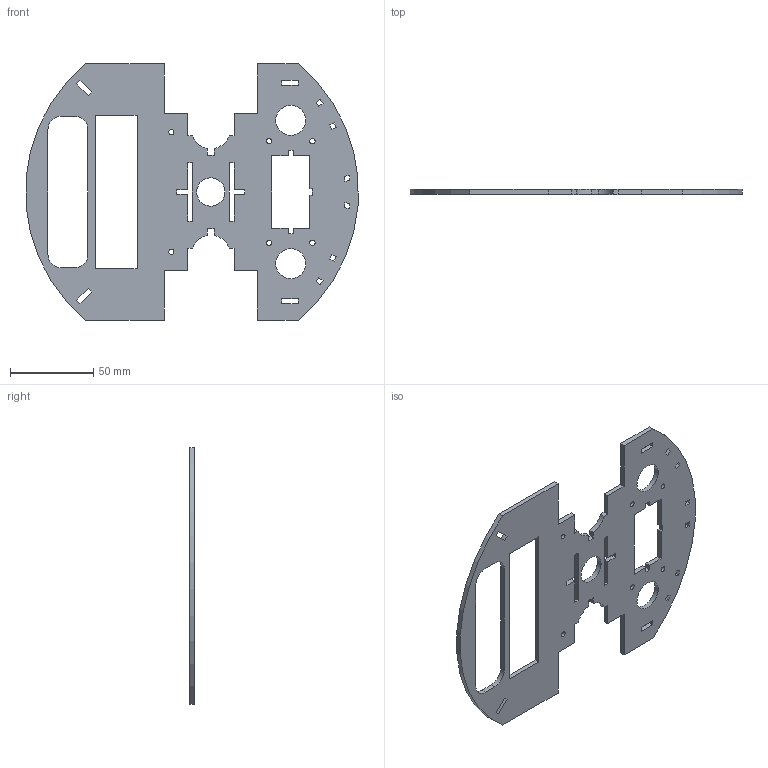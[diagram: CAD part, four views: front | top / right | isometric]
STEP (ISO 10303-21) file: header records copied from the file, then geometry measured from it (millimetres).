
FILE_DESCRIPTION(('FreeCAD Model'),'2;1');
FILE_NAME('Open CASCADE Shape Model','2024-06-26T11:40:50',('FreeCAD'),( 'FreeCAD'),'Open CASCADE STEP processor 7.6','FreeCAD','Unknown');
FILE_SCHEMA(('AUTOMOTIVE_DESIGN { 1 0 10303 214 1 1 1 1 }'));
Length unit declared in the file: millimetre
Products named in the file (1): Open CASCADE STEP translator 7.6 14
Bounding box: 199.36 x 3 x 154 mm (x, y, z)
Volume: 49051.4 mm3; surface area: 38672 mm2
Topology: 1 solids, 1 shells, 127 faces, 375 edges, 250 vertices
Faces by surface type: plane 108, cylinder 19
Full cylindrical faces by diameter (mm): 3.2 x6, 17 x1, 18 x2
Entity records: 4293 total; most frequent: CARTESIAN_POINT 753, ORIENTED_EDGE 750, DIRECTION 669, EDGE_CURVE 375, LINE 337, VECTOR 337, VERTEX_POINT 250, FACE_BOUND 175
